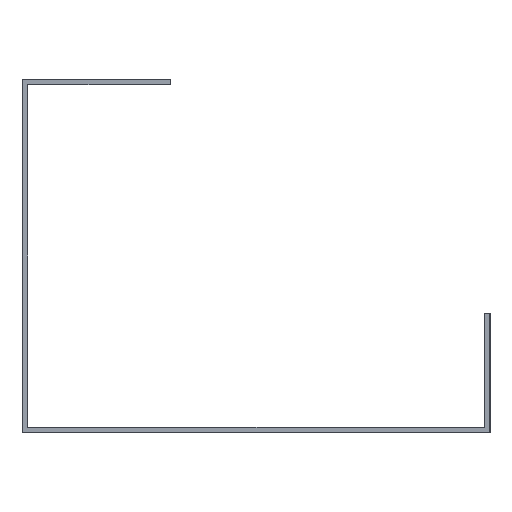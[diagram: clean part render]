
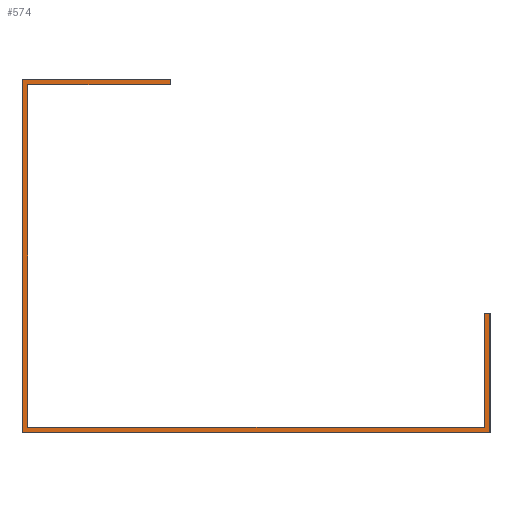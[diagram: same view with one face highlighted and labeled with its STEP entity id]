
A CAD part, left-side view. The second image highlights one B-rep face of the part: STEP entity #574.
In plain terms, the highlighted planar face has unit normal (-1, 0, 0).
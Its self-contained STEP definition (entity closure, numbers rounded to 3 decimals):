
#574 = ADVANCED_FACE( '', ( #1224 ), #1225, .F. );
#1224 = FACE_OUTER_BOUND( '', #1915, .T. );
#1225 = PLANE( '', #1916 );
#1915 = EDGE_LOOP( '', ( #3647, #3648, #3649, #3650, #3651, #3652, #3653, #3654, #3655, #3656 ) );
#1916 = AXIS2_PLACEMENT_3D( '', #3657, #3658, #3659 );
#3647 = ORIENTED_EDGE( '', *, *, #4498, .F. );
#3648 = ORIENTED_EDGE( '', *, *, #4905, .F. );
#3649 = ORIENTED_EDGE( '', *, *, #4855, .F. );
#3650 = ORIENTED_EDGE( '', *, *, #4942, .F. );
#3651 = ORIENTED_EDGE( '', *, *, #4430, .F. );
#3652 = ORIENTED_EDGE( '', *, *, #4911, .F. );
#3653 = ORIENTED_EDGE( '', *, *, #4943, .F. );
#3654 = ORIENTED_EDGE( '', *, *, #4743, .F. );
#3655 = ORIENTED_EDGE( '', *, *, #4688, .F. );
#3656 = ORIENTED_EDGE( '', *, *, #4888, .F. );
#3657 = CARTESIAN_POINT( '', ( -45., 0., 0. ) );
#3658 = DIRECTION( '', ( 1., 0., 0. ) );
#3659 = DIRECTION( '', ( 0., 0., -1. ) );
#4430 = EDGE_CURVE( '', #5451, #5447, #5453, .T. );
#4498 = EDGE_CURVE( '', #5567, #5569, #5570, .T. );
#4688 = EDGE_CURVE( '', #5873, #5874, #5875, .T. );
#4743 = EDGE_CURVE( '', #5874, #5955, #5956, .T. );
#4855 = EDGE_CURVE( '', #6100, #6102, #6103, .T. );
#4888 = EDGE_CURVE( '', #5569, #5873, #6144, .T. );
#4905 = EDGE_CURVE( '', #6102, #5567, #6165, .T. );
#4911 = EDGE_CURVE( '', #6170, #5451, #6172, .T. );
#4942 = EDGE_CURVE( '', #5447, #6100, #6210, .T. );
#4943 = EDGE_CURVE( '', #5955, #6170, #6211, .T. );
#5447 = VERTEX_POINT( '', #6902 );
#5451 = VERTEX_POINT( '', #6908 );
#5453 = LINE( '', #6911, #6912 );
#5567 = VERTEX_POINT( '', #7081 );
#5569 = VERTEX_POINT( '', #7084 );
#5570 = LINE( '', #7085, #7086 );
#5873 = VERTEX_POINT( '', #7543 );
#5874 = VERTEX_POINT( '', #7544 );
#5875 = LINE( '', #7545, #7546 );
#5955 = VERTEX_POINT( '', #7660 );
#5956 = LINE( '', #7661, #7662 );
#6100 = VERTEX_POINT( '', #7885 );
#6102 = VERTEX_POINT( '', #7888 );
#6103 = LINE( '', #7889, #7890 );
#6144 = LINE( '', #7948, #7949 );
#6165 = LINE( '', #7980, #7981 );
#6170 = VERTEX_POINT( '', #7987 );
#6172 = LINE( '', #7990, #7991 );
#6210 = LINE( '', #8046, #8047 );
#6211 = LINE( '', #8048, #8049 );
#6902 = CARTESIAN_POINT( '', ( -45., -65., -41. ) );
#6908 = CARTESIAN_POINT( '', ( -45., -65., -61. ) );
#6911 = CARTESIAN_POINT( '', ( -45., -65., -61. ) );
#6912 = VECTOR( '', #8402, 1000. );
#7081 = CARTESIAN_POINT( '', ( -45., 16., -62. ) );
#7084 = CARTESIAN_POINT( '', ( -45., 16., 0. ) );
#7085 = CARTESIAN_POINT( '', ( -45., 16., -62. ) );
#7086 = VECTOR( '', #8459, 1000. );
#7543 = CARTESIAN_POINT( '', ( -45., -10., 0. ) );
#7544 = CARTESIAN_POINT( '', ( -45., -10., -1. ) );
#7545 = CARTESIAN_POINT( '', ( -45., -10., 0. ) );
#7546 = VECTOR( '', #8626, 1000. );
#7660 = CARTESIAN_POINT( '', ( -45., 15., -1. ) );
#7661 = CARTESIAN_POINT( '', ( -45., -10., -1. ) );
#7662 = VECTOR( '', #8679, 1000. );
#7885 = CARTESIAN_POINT( '', ( -45., -66., -41. ) );
#7888 = CARTESIAN_POINT( '', ( -45., -66., -62. ) );
#7889 = CARTESIAN_POINT( '', ( -45., -66., -41. ) );
#7890 = VECTOR( '', #8760, 1000. );
#7948 = CARTESIAN_POINT( '', ( -45., 16., 0. ) );
#7949 = VECTOR( '', #8790, 1000. );
#7980 = CARTESIAN_POINT( '', ( -45., -66., -62. ) );
#7981 = VECTOR( '', #8801, 1000. );
#7987 = CARTESIAN_POINT( '', ( -45., 15., -61. ) );
#7990 = CARTESIAN_POINT( '', ( -45., 15., -61. ) );
#7991 = VECTOR( '', #8804, 1000. );
#8046 = CARTESIAN_POINT( '', ( -45., -65., -41. ) );
#8047 = VECTOR( '', #8822, 1000. );
#8048 = CARTESIAN_POINT( '', ( -45., 15., -1. ) );
#8049 = VECTOR( '', #8823, 1000. );
#8402 = DIRECTION( '', ( 0., 0., 1. ) );
#8459 = DIRECTION( '', ( 0., 0., 1. ) );
#8626 = DIRECTION( '', ( 0., 0., -1. ) );
#8679 = DIRECTION( '', ( 0., 1., 0. ) );
#8760 = DIRECTION( '', ( 0., 0., -1. ) );
#8790 = DIRECTION( '', ( 0., -1., 0. ) );
#8801 = DIRECTION( '', ( 0., 1., 0. ) );
#8804 = DIRECTION( '', ( 0., -1., 0. ) );
#8822 = DIRECTION( '', ( 0., -1., 0. ) );
#8823 = DIRECTION( '', ( 0., 0., -1. ) );
